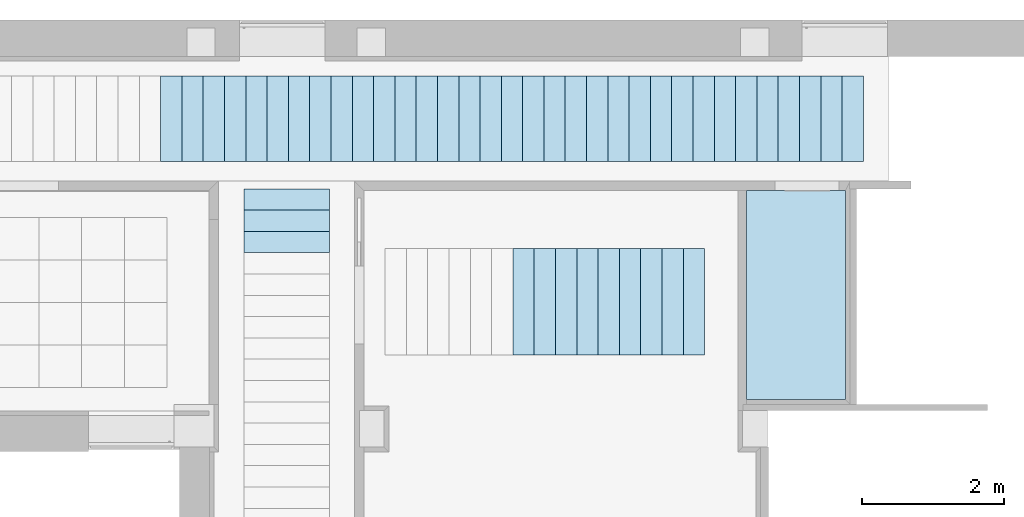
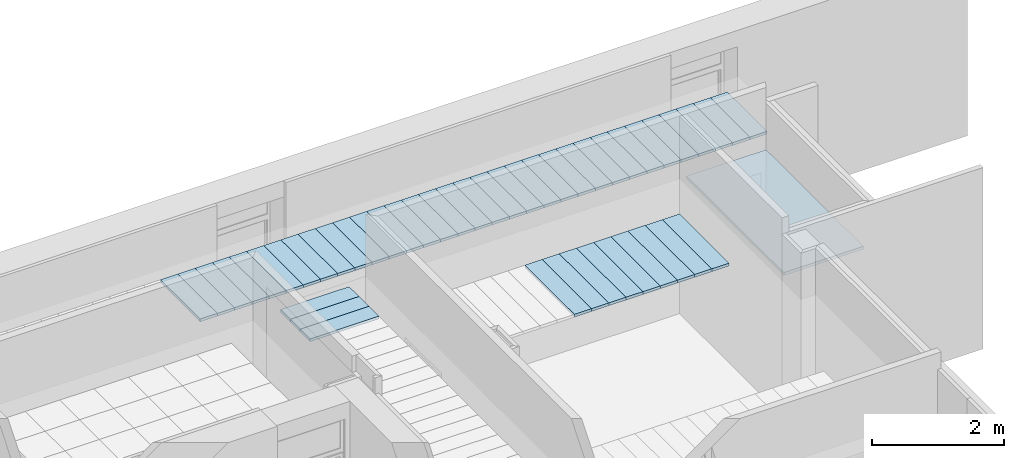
# One storey, part 13 of 60: 46 slabs.
"""IFC2X3 building model written with IfcOpenShell, lengths in millimetres."""

from ifc_helpers import new_model, entity, si_unit, converted_unit, derived_unit, money_unit, direction, frame, origin_with_axes, place, context, subcontext, project, spatial, polyline, outline, extrude, material, layer, layer_set, layer_usage, type_object, element, save


model = new_model("IFC2X3")

# Units and contexts
model_context = context("Model", 3, precision=0.01, world=origin_with_axes(), true_north=direction((0.0, 1.0)))
body_context = subcontext(model_context, "Body", "Model", "MODEL_VIEW")
ifc_project = project(units=[si_unit("LENGTHUNIT", "METRE", prefix="MILLI"), si_unit("AREAUNIT", "SQUARE_METRE"), si_unit("VOLUMEUNIT", "CUBIC_METRE"), converted_unit("PLANEANGLEUNIT", "DEGREE", entity("IfcPlaneAngleMeasure", 0.0174532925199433), si_unit("PLANEANGLEUNIT", "RADIAN"), dimensions=[0, 0, 0, 0, 0, 0, 0]), money_unit("USD"), converted_unit("TIMEUNIT", "Year", entity("IfcTimeMeasure", 31557600.0), si_unit("TIMEUNIT", "SECOND"), dimensions=[0, 0, 1, 0, 0, 0, 0]), si_unit("MASSUNIT", "GRAM", prefix="KILO"), si_unit("THERMODYNAMICTEMPERATUREUNIT", "DEGREE_CELSIUS"), si_unit("LUMINOUSINTENSITYUNIT", "LUMEN"), si_unit("ENERGYUNIT", "JOULE", prefix="MEGA"), derived_unit("THERMALCONDUCTANCEUNIT", [(si_unit("POWERUNIT", "WATT"), 1), (si_unit("LENGTHUNIT", "METRE"), -1), (si_unit("THERMODYNAMICTEMPERATUREUNIT", "KELVIN"), -1)]), derived_unit("SPECIFICHEATCAPACITYUNIT", [(si_unit("ENERGYUNIT", "JOULE"), 1), (si_unit("MASSUNIT", "GRAM", prefix="KILO"), -1), (si_unit("THERMODYNAMICTEMPERATUREUNIT", "KELVIN"), -1)]), derived_unit("MASSDENSITYUNIT", [(si_unit("MASSUNIT", "GRAM", prefix="KILO"), 1), (si_unit("VOLUMEUNIT", "CUBIC_METRE"), -1)])], contexts=[model_context])

# Site, building, storey
site_placement = place(None, origin_with_axes())
site = spatial("IfcSite", under=ifc_project, at=site_placement, Name="Sitio", CompositionType="ELEMENT")
building_placement = place(site_placement, origin_with_axes())
building = spatial("IfcBuilding", under=site, at=building_placement, Name="Construcción", CompositionType="ELEMENT")
storey_placement = place(building_placement, frame((0.0, 0.0, 3650.0), z_axis=(0.0, 0.0, 1.0), x_axis=(1.0, 0.0, 0.0)))
storey = spatial("IfcBuildingStorey", under=building, at=storey_placement, Name="PLANTA 2ª", CompositionType="ELEMENT", Elevation=3650.0)

# Slabs
ifc_material_1 = material(Name="ARQ_ME126_CelRas_Placa_Metallica")
ifc_layer_1 = layer(ifc_material_1, 50.0, ventilated="UNKNOWN")
ifc_layer_set_1 = layer_set([ifc_layer_1], Name="ARQ_ME126_CelRas_Placa_Metallica 50")
ifc_layer_usage_1 = layer_usage(ifc_layer_set_1, "AXIS3", "NEGATIVE", 50.0)
slab_type_1 = type_object("IfcSlabType", Name="ARQ_ME126_CelRas_Placa_Metallica 50", PredefinedType="NOTDEFINED")
slab_1_placement = place(storey_placement, frame((2592.890995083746, 1163.291547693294, 2500.0), z_axis=(0.0, 0.0, 1.0), x_axis=(1.0, 0.0, 0.0)))
element("IfcSlab", 1, at=slab_1_placement, inside=storey, type_object=slab_type_1, material=ifc_layer_usage_1, Name="SLA - 026", PredefinedType="NOTDEFINED", context=body_context, shape_type="SweptSolid", body=[
    extrude(outline(polyline([(0.0, 0.0), (0.0, -1500.0), (299.9999999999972, -1500.0), (299.9999999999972, 0.0), (0.0, 0.0)])), frame((0.0, 0.0, -50.0), z_axis=(0.0, 0.0, 1.0), x_axis=(1.0, 0.0, 0.0)), (0.0, 0.0, 1.0), 50.0),
])
ifc_layer_usage_2 = layer_usage(ifc_layer_set_1, "AXIS3", "NEGATIVE", 50.0)
slab_2_placement = place(storey_placement, frame((2892.890995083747, 1163.291547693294, 2500.0), z_axis=(0.0, 0.0, 1.0), x_axis=(1.0, 0.0, 0.0)))
element("IfcSlab", 2, at=slab_2_placement, inside=storey, type_object=slab_type_1, material=ifc_layer_usage_2, Name="SLA - 026", PredefinedType="NOTDEFINED", context=body_context, shape_type="SweptSolid", body=[
    extrude(outline(polyline([(0.0, 0.0), (0.0, -1500.0), (299.9999999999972, -1500.0), (299.9999999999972, 0.0), (0.0, 0.0)])), frame((0.0, 0.0, -50.0), z_axis=(0.0, 0.0, 1.0), x_axis=(1.0, 0.0, 0.0)), (0.0, 0.0, 1.0), 50.0),
])
ifc_layer_usage_3 = layer_usage(ifc_layer_set_1, "AXIS3", "NEGATIVE", 50.0)
slab_3_placement = place(storey_placement, frame((3192.890995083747, 1163.291547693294, 2500.0), z_axis=(0.0, 0.0, 1.0), x_axis=(1.0, 0.0, 0.0)))
element("IfcSlab", 3, at=slab_3_placement, inside=storey, type_object=slab_type_1, material=ifc_layer_usage_3, Name="SLA - 026", PredefinedType="NOTDEFINED", context=body_context, shape_type="SweptSolid", body=[
    extrude(outline(polyline([(0.0, 0.0), (0.0, -1500.0), (299.9999999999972, -1500.0), (299.9999999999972, 0.0), (0.0, 0.0)])), frame((0.0, 0.0, -50.0), z_axis=(0.0, 0.0, 1.0), x_axis=(1.0, 0.0, 0.0)), (0.0, 0.0, 1.0), 50.0),
])
ifc_layer_usage_4 = layer_usage(ifc_layer_set_1, "AXIS3", "NEGATIVE", 50.0)
slab_4_placement = place(storey_placement, frame((3492.890995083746, 1163.291547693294, 2500.0), z_axis=(0.0, 0.0, 1.0), x_axis=(1.0, 0.0, 0.0)))
element("IfcSlab", 4, at=slab_4_placement, inside=storey, type_object=slab_type_1, material=ifc_layer_usage_4, Name="SLA - 026", PredefinedType="NOTDEFINED", context=body_context, shape_type="SweptSolid", body=[
    extrude(outline(polyline([(0.0, 0.0), (0.0, -1500.0), (299.9999999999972, -1500.0), (299.9999999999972, 0.0), (0.0, 0.0)])), frame((0.0, 0.0, -50.0), z_axis=(0.0, 0.0, 1.0), x_axis=(1.0, 0.0, 0.0)), (0.0, 0.0, 1.0), 50.0),
])
ifc_layer_usage_5 = layer_usage(ifc_layer_set_1, "AXIS3", "NEGATIVE", 50.0)
slab_5_placement = place(storey_placement, frame((3792.890995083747, 1163.291547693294, 2500.0), z_axis=(0.0, 0.0, 1.0), x_axis=(1.0, 0.0, 0.0)))
element("IfcSlab", 5, at=slab_5_placement, inside=storey, type_object=slab_type_1, material=ifc_layer_usage_5, Name="SLA - 026", PredefinedType="NOTDEFINED", context=body_context, shape_type="SweptSolid", body=[
    extrude(outline(polyline([(0.0, 0.0), (0.0, -1500.0), (299.9999999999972, -1500.0), (299.9999999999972, 0.0), (0.0, 0.0)])), frame((0.0, 0.0, -50.0), z_axis=(0.0, 0.0, 1.0), x_axis=(1.0, 0.0, 0.0)), (0.0, 0.0, 1.0), 50.0),
])
ifc_layer_usage_6 = layer_usage(ifc_layer_set_1, "AXIS3", "NEGATIVE", 50.0)
slab_6_placement = place(storey_placement, frame((4392.890995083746, 1163.291547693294, 2500.0), z_axis=(0.0, 0.0, 1.0), x_axis=(1.0, 0.0, 0.0)))
element("IfcSlab", 6, at=slab_6_placement, inside=storey, type_object=slab_type_1, material=ifc_layer_usage_6, Name="SLA - 026", PredefinedType="NOTDEFINED", context=body_context, shape_type="SweptSolid", body=[
    extrude(outline(polyline([(0.0, 0.0), (0.0, -1500.0), (299.9999999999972, -1500.0), (299.9999999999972, 0.0), (0.0, 0.0)])), frame((0.0, 0.0, -50.0), z_axis=(0.0, 0.0, 1.0), x_axis=(1.0, 0.0, 0.0)), (0.0, 0.0, 1.0), 50.0),
])
ifc_layer_usage_7 = layer_usage(ifc_layer_set_1, "AXIS3", "NEGATIVE", 50.0)
slab_7_placement = place(storey_placement, frame((4692.890995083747, 1163.291547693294, 2500.0), z_axis=(0.0, 0.0, 1.0), x_axis=(1.0, 0.0, 0.0)))
element("IfcSlab", 7, at=slab_7_placement, inside=storey, type_object=slab_type_1, material=ifc_layer_usage_7, Name="SLA - 026", PredefinedType="NOTDEFINED", context=body_context, shape_type="SweptSolid", body=[
    extrude(outline(polyline([(0.0, 0.0), (0.0, -1500.0), (299.9999999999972, -1500.0), (299.9999999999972, 0.0), (0.0, 0.0)])), frame((0.0, 0.0, -50.0), z_axis=(0.0, 0.0, 1.0), x_axis=(1.0, 0.0, 0.0)), (0.0, 0.0, 1.0), 50.0),
])
ifc_layer_usage_8 = layer_usage(ifc_layer_set_1, "AXIS3", "NEGATIVE", 50.0)
slab_8_placement = place(storey_placement, frame((4992.890995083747, 1163.291547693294, 2500.0), z_axis=(0.0, 0.0, 1.0), x_axis=(1.0, 0.0, 0.0)))
element("IfcSlab", 8, at=slab_8_placement, inside=storey, type_object=slab_type_1, material=ifc_layer_usage_8, Name="SLA - 026", PredefinedType="NOTDEFINED", context=body_context, shape_type="SweptSolid", body=[
    extrude(outline(polyline([(0.0, 0.0), (0.0, -1500.0), (299.9999999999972, -1500.0), (299.9999999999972, 0.0), (0.0, 0.0)])), frame((0.0, 0.0, -50.0), z_axis=(0.0, 0.0, 1.0), x_axis=(1.0, 0.0, 0.0)), (0.0, 0.0, 1.0), 50.0),
])
ifc_layer_usage_9 = layer_usage(ifc_layer_set_1, "AXIS3", "NEGATIVE", 50.0)
slab_9_placement = place(storey_placement, frame((4092.890995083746, 1163.291547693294, 2500.0), z_axis=(0.0, 0.0, 1.0), x_axis=(1.0, 0.0, 0.0)))
element("IfcSlab", 9, at=slab_9_placement, inside=storey, type_object=slab_type_1, material=ifc_layer_usage_9, Name="SLA - 026", PredefinedType="NOTDEFINED", context=body_context, shape_type="SweptSolid", body=[
    extrude(outline(polyline([(0.0, 0.0), (0.0, -1500.0), (299.9999999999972, -1500.0), (299.9999999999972, 0.0), (0.0, 0.0)])), frame((0.0, 0.0, -50.0), z_axis=(0.0, 0.0, 1.0), x_axis=(1.0, 0.0, 0.0)), (0.0, 0.0, 1.0), 50.0),
])
ifc_layer_usage_10 = layer_usage(ifc_layer_set_1, "AXIS3", "NEGATIVE", 50.0)
slab_10_placement = place(storey_placement, frame((-1192.609613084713, 1100.853055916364, 2500.0), z_axis=(0.0, 0.0, 1.0), x_axis=(1.0, 0.0, 0.0)))
element("IfcSlab", 10, at=slab_10_placement, inside=storey, type_object=slab_type_1, material=ifc_layer_usage_10, Name="SLA - 026", PredefinedType="NOTDEFINED", context=body_context, shape_type="SweptSolid", body=[
    extrude(outline(polyline([(0.0, 0.0), (1200.0, 0.0), (1200.0, 299.9999999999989), (0.0, 299.9999999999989), (0.0, 0.0)])), frame((0.0, 0.0, -50.0), z_axis=(0.0, 0.0, 1.0), x_axis=(1.0, 0.0, 0.0)), (0.0, 0.0, 1.0), 50.0),
])
ifc_layer_usage_11 = layer_usage(ifc_layer_set_1, "AXIS3", "NEGATIVE", 50.0)
slab_11_placement = place(storey_placement, frame((-1192.609613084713, 1400.853055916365, 2500.0), z_axis=(0.0, 0.0, 1.0), x_axis=(1.0, 0.0, 0.0)))
element("IfcSlab", 11, at=slab_11_placement, inside=storey, type_object=slab_type_1, material=ifc_layer_usage_11, Name="SLA - 026", PredefinedType="NOTDEFINED", context=body_context, shape_type="SweptSolid", body=[
    extrude(outline(polyline([(0.0, 0.0), (1200.0, 0.0), (1200.0, 299.9999999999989), (0.0, 299.9999999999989), (0.0, 0.0)])), frame((0.0, 0.0, -50.0), z_axis=(0.0, 0.0, 1.0), x_axis=(1.0, 0.0, 0.0)), (0.0, 0.0, 1.0), 50.0),
])
ifc_layer_usage_12 = layer_usage(ifc_layer_set_1, "AXIS3", "NEGATIVE", 50.0)
slab_12_placement = place(storey_placement, frame((5129.762917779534, 3586.50452866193, 2500.0), z_axis=(0.0, 0.0, 1.0), x_axis=(1.0, 0.0, 0.0)))
element("IfcSlab", 12, at=slab_12_placement, inside=storey, type_object=slab_type_1, material=ifc_layer_usage_12, Name="SLA - 026", PredefinedType="NOTDEFINED", context=body_context, shape_type="SweptSolid", body=[
    extrude(outline(polyline([(0.0, 0.0), (0.0, -1199.999999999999), (300.0000000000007, -1199.999999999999), (300.0000000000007, 0.0), (0.0, 0.0)])), frame((0.0, 0.0, -50.0), z_axis=(0.0, 0.0, 1.0), x_axis=(1.0, 0.0, 0.0)), (0.0, 0.0, 1.0), 50.0),
])
ifc_layer_usage_13 = layer_usage(ifc_layer_set_1, "AXIS3", "NEGATIVE", 50.0)
slab_13_placement = place(storey_placement, frame((4829.762917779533, 3586.50452866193, 2500.0), z_axis=(0.0, 0.0, 1.0), x_axis=(1.0, 0.0, 0.0)))
element("IfcSlab", 13, at=slab_13_placement, inside=storey, type_object=slab_type_1, material=ifc_layer_usage_13, Name="SLA - 026", PredefinedType="NOTDEFINED", context=body_context, shape_type="SweptSolid", body=[
    extrude(outline(polyline([(0.0, 0.0), (0.0, -1199.999999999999), (300.0000000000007, -1199.999999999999), (300.0000000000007, 0.0), (0.0, 0.0)])), frame((0.0, 0.0, -50.0), z_axis=(0.0, 0.0, 1.0), x_axis=(1.0, 0.0, 0.0)), (0.0, 0.0, 1.0), 50.0),
])
ifc_layer_usage_14 = layer_usage(ifc_layer_set_1, "AXIS3", "NEGATIVE", 50.0)
slab_14_placement = place(storey_placement, frame((4529.762917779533, 3586.50452866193, 2500.0), z_axis=(0.0, 0.0, 1.0), x_axis=(1.0, 0.0, 0.0)))
element("IfcSlab", 14, at=slab_14_placement, inside=storey, type_object=slab_type_1, material=ifc_layer_usage_14, Name="SLA - 026", PredefinedType="NOTDEFINED", context=body_context, shape_type="SweptSolid", body=[
    extrude(outline(polyline([(0.0, 0.0), (0.0, -1199.999999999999), (300.0000000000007, -1199.999999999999), (300.0000000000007, 0.0), (0.0, 0.0)])), frame((0.0, 0.0, -50.0), z_axis=(0.0, 0.0, 1.0), x_axis=(1.0, 0.0, 0.0)), (0.0, 0.0, 1.0), 50.0),
])
ifc_layer_usage_15 = layer_usage(ifc_layer_set_1, "AXIS3", "NEGATIVE", 50.0)
slab_15_placement = place(storey_placement, frame((-1192.609613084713, 1700.853055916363, 2500.0), z_axis=(0.0, 0.0, 1.0), x_axis=(1.0, 0.0, 0.0)))
element("IfcSlab", 15, at=slab_15_placement, inside=storey, type_object=slab_type_1, material=ifc_layer_usage_15, Name="SLA - 026", PredefinedType="NOTDEFINED", context=body_context, shape_type="SweptSolid", body=[
    extrude(outline(polyline([(0.0, 0.0), (1200.0, 0.0), (1200.0, 299.9999999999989), (0.0, 299.9999999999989), (0.0, 0.0)])), frame((0.0, 0.0, -50.0), z_axis=(0.0, 0.0, 1.0), x_axis=(1.0, 0.0, 0.0)), (0.0, 0.0, 1.0), 50.0),
])
ifc_layer_usage_16 = layer_usage(ifc_layer_set_1, "AXIS3", "NEGATIVE", 50.0)
slab_16_placement = place(storey_placement, frame((3929.762917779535, 3586.50452866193, 2500.0), z_axis=(0.0, 0.0, 1.0), x_axis=(1.0, 0.0, 0.0)))
element("IfcSlab", 16, at=slab_16_placement, inside=storey, type_object=slab_type_1, material=ifc_layer_usage_16, Name="SLA - 026", PredefinedType="NOTDEFINED", context=body_context, shape_type="SweptSolid", body=[
    extrude(outline(polyline([(0.0, 0.0), (0.0, -1199.999999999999), (300.0000000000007, -1199.999999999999), (300.0000000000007, 0.0), (0.0, 0.0)])), frame((0.0, 0.0, -50.0), z_axis=(0.0, 0.0, 1.0), x_axis=(1.0, 0.0, 0.0)), (0.0, 0.0, 1.0), 50.0),
])
ifc_layer_usage_17 = layer_usage(ifc_layer_set_1, "AXIS3", "NEGATIVE", 50.0)
slab_17_placement = place(storey_placement, frame((3629.762917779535, 3586.50452866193, 2500.0), z_axis=(0.0, 0.0, 1.0), x_axis=(1.0, 0.0, 0.0)))
element("IfcSlab", 17, at=slab_17_placement, inside=storey, type_object=slab_type_1, material=ifc_layer_usage_17, Name="SLA - 026", PredefinedType="NOTDEFINED", context=body_context, shape_type="SweptSolid", body=[
    extrude(outline(polyline([(0.0, 0.0), (0.0, -1199.999999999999), (300.0000000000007, -1199.999999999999), (300.0000000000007, 0.0), (0.0, 0.0)])), frame((0.0, 0.0, -50.0), z_axis=(0.0, 0.0, 1.0), x_axis=(1.0, 0.0, 0.0)), (0.0, 0.0, 1.0), 50.0),
])
ifc_layer_usage_18 = layer_usage(ifc_layer_set_1, "AXIS3", "NEGATIVE", 50.0)
slab_18_placement = place(storey_placement, frame((3329.762917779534, 3586.50452866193, 2500.0), z_axis=(0.0, 0.0, 1.0), x_axis=(1.0, 0.0, 0.0)))
element("IfcSlab", 18, at=slab_18_placement, inside=storey, type_object=slab_type_1, material=ifc_layer_usage_18, Name="SLA - 026", PredefinedType="NOTDEFINED", context=body_context, shape_type="SweptSolid", body=[
    extrude(outline(polyline([(0.0, 0.0), (0.0, -1199.999999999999), (300.0000000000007, -1199.999999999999), (300.0000000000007, 0.0), (0.0, 0.0)])), frame((0.0, 0.0, -50.0), z_axis=(0.0, 0.0, 1.0), x_axis=(1.0, 0.0, 0.0)), (0.0, 0.0, 1.0), 50.0),
])
ifc_layer_usage_19 = layer_usage(ifc_layer_set_1, "AXIS3", "NEGATIVE", 50.0)
slab_19_placement = place(storey_placement, frame((3029.762917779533, 3586.50452866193, 2500.0), z_axis=(0.0, 0.0, 1.0), x_axis=(1.0, 0.0, 0.0)))
element("IfcSlab", 19, at=slab_19_placement, inside=storey, type_object=slab_type_1, material=ifc_layer_usage_19, Name="SLA - 026", PredefinedType="NOTDEFINED", context=body_context, shape_type="SweptSolid", body=[
    extrude(outline(polyline([(0.0, 0.0), (0.0, -1199.999999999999), (300.0000000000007, -1199.999999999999), (300.0000000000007, 0.0), (0.0, 0.0)])), frame((0.0, 0.0, -50.0), z_axis=(0.0, 0.0, 1.0), x_axis=(1.0, 0.0, 0.0)), (0.0, 0.0, 1.0), 50.0),
])
ifc_layer_usage_20 = layer_usage(ifc_layer_set_1, "AXIS3", "NEGATIVE", 50.0)
slab_20_placement = place(storey_placement, frame((4229.762917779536, 3586.50452866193, 2500.0), z_axis=(0.0, 0.0, 1.0), x_axis=(1.0, 0.0, 0.0)))
element("IfcSlab", 20, at=slab_20_placement, inside=storey, type_object=slab_type_1, material=ifc_layer_usage_20, Name="SLA - 026", PredefinedType="NOTDEFINED", context=body_context, shape_type="SweptSolid", body=[
    extrude(outline(polyline([(0.0, 0.0), (0.0, -1199.999999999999), (300.0000000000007, -1199.999999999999), (300.0000000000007, 0.0), (0.0, 0.0)])), frame((0.0, 0.0, -50.0), z_axis=(0.0, 0.0, 1.0), x_axis=(1.0, 0.0, 0.0)), (0.0, 0.0, 1.0), 50.0),
])
ifc_layer_usage_21 = layer_usage(ifc_layer_set_1, "AXIS3", "NEGATIVE", 50.0)
slab_21_placement = place(storey_placement, frame((2729.762917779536, 3586.50452866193, 2500.0), z_axis=(0.0, 0.0, 1.0), x_axis=(1.0, 0.0, 0.0)))
element("IfcSlab", 21, at=slab_21_placement, inside=storey, type_object=slab_type_1, material=ifc_layer_usage_21, Name="SLA - 026", PredefinedType="NOTDEFINED", context=body_context, shape_type="SweptSolid", body=[
    extrude(outline(polyline([(0.0, 0.0), (0.0, -1199.999999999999), (300.0000000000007, -1199.999999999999), (300.0000000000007, 0.0), (0.0, 0.0)])), frame((0.0, 0.0, -50.0), z_axis=(0.0, 0.0, 1.0), x_axis=(1.0, 0.0, 0.0)), (0.0, 0.0, 1.0), 50.0),
])
ifc_layer_usage_22 = layer_usage(ifc_layer_set_1, "AXIS3", "NEGATIVE", 50.0)
slab_22_placement = place(storey_placement, frame((2129.762917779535, 3586.50452866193, 2500.0), z_axis=(0.0, 0.0, 1.0), x_axis=(1.0, 0.0, 0.0)))
element("IfcSlab", 22, at=slab_22_placement, inside=storey, type_object=slab_type_1, material=ifc_layer_usage_22, Name="SLA - 026", PredefinedType="NOTDEFINED", context=body_context, shape_type="SweptSolid", body=[
    extrude(outline(polyline([(0.0, 0.0), (0.0, -1199.999999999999), (300.0000000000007, -1199.999999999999), (300.0000000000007, 0.0), (0.0, 0.0)])), frame((0.0, 0.0, -50.0), z_axis=(0.0, 0.0, 1.0), x_axis=(1.0, 0.0, 0.0)), (0.0, 0.0, 1.0), 50.0),
])
ifc_layer_usage_23 = layer_usage(ifc_layer_set_1, "AXIS3", "NEGATIVE", 50.0)
slab_23_placement = place(storey_placement, frame((1829.762917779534, 3586.50452866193, 2500.0), z_axis=(0.0, 0.0, 1.0), x_axis=(1.0, 0.0, 0.0)))
element("IfcSlab", 23, at=slab_23_placement, inside=storey, type_object=slab_type_1, material=ifc_layer_usage_23, Name="SLA - 026", PredefinedType="NOTDEFINED", context=body_context, shape_type="SweptSolid", body=[
    extrude(outline(polyline([(0.0, 0.0), (0.0, -1199.999999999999), (300.0000000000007, -1199.999999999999), (300.0000000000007, 0.0), (0.0, 0.0)])), frame((0.0, 0.0, -50.0), z_axis=(0.0, 0.0, 1.0), x_axis=(1.0, 0.0, 0.0)), (0.0, 0.0, 1.0), 50.0),
])
ifc_layer_usage_24 = layer_usage(ifc_layer_set_1, "AXIS3", "NEGATIVE", 50.0)
slab_24_placement = place(storey_placement, frame((2429.762917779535, 3586.50452866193, 2500.0), z_axis=(0.0, 0.0, 1.0), x_axis=(1.0, 0.0, 0.0)))
element("IfcSlab", 24, at=slab_24_placement, inside=storey, type_object=slab_type_1, material=ifc_layer_usage_24, Name="SLA - 026", PredefinedType="NOTDEFINED", context=body_context, shape_type="SweptSolid", body=[
    extrude(outline(polyline([(0.0, 0.0), (0.0, -1199.999999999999), (300.0000000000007, -1199.999999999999), (300.0000000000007, 0.0), (0.0, 0.0)])), frame((0.0, 0.0, -50.0), z_axis=(0.0, 0.0, 1.0), x_axis=(1.0, 0.0, 0.0)), (0.0, 0.0, 1.0), 50.0),
])
ifc_layer_usage_25 = layer_usage(ifc_layer_set_1, "AXIS3", "NEGATIVE", 50.0)
slab_25_placement = place(storey_placement, frame((1229.762917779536, 3586.50452866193, 2500.0), z_axis=(0.0, 0.0, 1.0), x_axis=(1.0, 0.0, 0.0)))
element("IfcSlab", 25, at=slab_25_placement, inside=storey, type_object=slab_type_1, material=ifc_layer_usage_25, Name="SLA - 026", PredefinedType="NOTDEFINED", context=body_context, shape_type="SweptSolid", body=[
    extrude(outline(polyline([(0.0, 0.0), (0.0, -1199.999999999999), (300.0000000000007, -1199.999999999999), (300.0000000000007, 0.0), (0.0, 0.0)])), frame((0.0, 0.0, -50.0), z_axis=(0.0, 0.0, 1.0), x_axis=(1.0, 0.0, 0.0)), (0.0, 0.0, 1.0), 50.0),
])
ifc_layer_usage_26 = layer_usage(ifc_layer_set_1, "AXIS3", "NEGATIVE", 50.0)
slab_26_placement = place(storey_placement, frame((929.7629177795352, 3586.50452866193, 2500.0), z_axis=(0.0, 0.0, 1.0), x_axis=(1.0, 0.0, 0.0)))
element("IfcSlab", 26, at=slab_26_placement, inside=storey, type_object=slab_type_1, material=ifc_layer_usage_26, Name="SLA - 026", PredefinedType="NOTDEFINED", context=body_context, shape_type="SweptSolid", body=[
    extrude(outline(polyline([(0.0, 0.0), (0.0, -1199.999999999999), (300.0000000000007, -1199.999999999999), (300.0000000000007, 0.0), (0.0, 0.0)])), frame((0.0, 0.0, -50.0), z_axis=(0.0, 0.0, 1.0), x_axis=(1.0, 0.0, 0.0)), (0.0, 0.0, 1.0), 50.0),
])
ifc_layer_usage_27 = layer_usage(ifc_layer_set_1, "AXIS3", "NEGATIVE", 50.0)
slab_27_placement = place(storey_placement, frame((1529.762917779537, 3586.50452866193, 2500.0), z_axis=(0.0, 0.0, 1.0), x_axis=(1.0, 0.0, 0.0)))
element("IfcSlab", 27, at=slab_27_placement, inside=storey, type_object=slab_type_1, material=ifc_layer_usage_27, Name="SLA - 026", PredefinedType="NOTDEFINED", context=body_context, shape_type="SweptSolid", body=[
    extrude(outline(polyline([(0.0, 0.0), (0.0, -1199.999999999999), (300.0000000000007, -1199.999999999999), (300.0000000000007, 0.0), (0.0, 0.0)])), frame((0.0, 0.0, -50.0), z_axis=(0.0, 0.0, 1.0), x_axis=(1.0, 0.0, 0.0)), (0.0, 0.0, 1.0), 50.0),
])
ifc_layer_usage_28 = layer_usage(ifc_layer_set_1, "AXIS3", "NEGATIVE", 50.0)
slab_28_placement = place(storey_placement, frame((629.7629177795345, 3586.50452866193, 2500.0), z_axis=(0.0, 0.0, 1.0), x_axis=(1.0, 0.0, 0.0)))
element("IfcSlab", 28, at=slab_28_placement, inside=storey, type_object=slab_type_1, material=ifc_layer_usage_28, Name="SLA - 026", PredefinedType="NOTDEFINED", context=body_context, shape_type="SweptSolid", body=[
    extrude(outline(polyline([(0.0, 0.0), (0.0, -1199.999999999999), (300.0000000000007, -1199.999999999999), (300.0000000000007, 0.0), (0.0, 0.0)])), frame((0.0, 0.0, -50.0), z_axis=(0.0, 0.0, 1.0), x_axis=(1.0, 0.0, 0.0)), (0.0, 0.0, 1.0), 50.0),
])
ifc_layer_usage_29 = layer_usage(ifc_layer_set_1, "AXIS3", "NEGATIVE", 50.0)
slab_29_placement = place(storey_placement, frame((329.7629177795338, 3586.50452866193, 2500.0), z_axis=(0.0, 0.0, 1.0), x_axis=(1.0, 0.0, 0.0)))
element("IfcSlab", 29, at=slab_29_placement, inside=storey, type_object=slab_type_1, material=ifc_layer_usage_29, Name="SLA - 026", PredefinedType="NOTDEFINED", context=body_context, shape_type="SweptSolid", body=[
    extrude(outline(polyline([(0.0, 0.0), (0.0, -1199.999999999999), (300.0000000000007, -1199.999999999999), (300.0000000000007, 0.0), (0.0, 0.0)])), frame((0.0, 0.0, -50.0), z_axis=(0.0, 0.0, 1.0), x_axis=(1.0, 0.0, 0.0)), (0.0, 0.0, 1.0), 50.0),
])
ifc_layer_usage_30 = layer_usage(ifc_layer_set_1, "AXIS3", "NEGATIVE", 50.0)
slab_30_placement = place(storey_placement, frame((-270.2370822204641, 3586.50452866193, 2500.0), z_axis=(0.0, 0.0, 1.0), x_axis=(1.0, 0.0, 0.0)))
element("IfcSlab", 30, at=slab_30_placement, inside=storey, type_object=slab_type_1, material=ifc_layer_usage_30, Name="SLA - 026", PredefinedType="NOTDEFINED", context=body_context, shape_type="SweptSolid", body=[
    extrude(outline(polyline([(0.0, 0.0), (0.0, -1199.999999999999), (300.0000000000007, -1199.999999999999), (300.0000000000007, 0.0), (0.0, 0.0)])), frame((0.0, 0.0, -50.0), z_axis=(0.0, 0.0, 1.0), x_axis=(1.0, 0.0, 0.0)), (0.0, 0.0, 1.0), 50.0),
])
ifc_layer_usage_31 = layer_usage(ifc_layer_set_1, "AXIS3", "NEGATIVE", 50.0)
slab_31_placement = place(storey_placement, frame((29.76291777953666, 3586.50452866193, 2500.0), z_axis=(0.0, 0.0, 1.0), x_axis=(1.0, 0.0, 0.0)))
element("IfcSlab", 31, at=slab_31_placement, inside=storey, type_object=slab_type_1, material=ifc_layer_usage_31, Name="SLA - 026", PredefinedType="NOTDEFINED", context=body_context, shape_type="SweptSolid", body=[
    extrude(outline(polyline([(0.0, 0.0), (0.0, -1199.999999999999), (300.0000000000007, -1199.999999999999), (300.0000000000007, 0.0), (0.0, 0.0)])), frame((0.0, 0.0, -50.0), z_axis=(0.0, 0.0, 1.0), x_axis=(1.0, 0.0, 0.0)), (0.0, 0.0, 1.0), 50.0),
])
ifc_layer_usage_32 = layer_usage(ifc_layer_set_1, "AXIS3", "NEGATIVE", 50.0)
slab_32_placement = place(storey_placement, frame((-570.2370822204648, 3586.50452866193, 2500.0), z_axis=(0.0, 0.0, 1.0), x_axis=(1.0, 0.0, 0.0)))
element("IfcSlab", 32, at=slab_32_placement, inside=storey, type_object=slab_type_1, material=ifc_layer_usage_32, Name="SLA - 026", PredefinedType="NOTDEFINED", context=body_context, shape_type="SweptSolid", body=[
    extrude(outline(polyline([(0.0, 0.0), (0.0, -1199.999999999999), (300.0000000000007, -1199.999999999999), (300.0000000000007, 0.0), (0.0, 0.0)])), frame((0.0, 0.0, -50.0), z_axis=(0.0, 0.0, 1.0), x_axis=(1.0, 0.0, 0.0)), (0.0, 0.0, 1.0), 50.0),
])
ifc_layer_usage_33 = layer_usage(ifc_layer_set_1, "AXIS3", "NEGATIVE", 50.0)
slab_33_placement = place(storey_placement, frame((-870.2370822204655, 3586.50452866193, 2500.0), z_axis=(0.0, 0.0, 1.0), x_axis=(1.0, 0.0, 0.0)))
element("IfcSlab", 33, at=slab_33_placement, inside=storey, type_object=slab_type_1, material=ifc_layer_usage_33, Name="SLA - 026", PredefinedType="NOTDEFINED", context=body_context, shape_type="SweptSolid", body=[
    extrude(outline(polyline([(0.0, 0.0), (0.0, -1199.999999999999), (300.0000000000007, -1199.999999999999), (300.0000000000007, 0.0), (0.0, 0.0)])), frame((0.0, 0.0, -50.0), z_axis=(0.0, 0.0, 1.0), x_axis=(1.0, 0.0, 0.0)), (0.0, 0.0, 1.0), 50.0),
])
ifc_layer_usage_34 = layer_usage(ifc_layer_set_1, "AXIS3", "NEGATIVE", 50.0)
slab_34_placement = place(storey_placement, frame((-1170.237082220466, 3586.50452866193, 2500.0), z_axis=(0.0, 0.0, 1.0), x_axis=(1.0, 0.0, 0.0)))
element("IfcSlab", 34, at=slab_34_placement, inside=storey, type_object=slab_type_1, material=ifc_layer_usage_34, Name="SLA - 026", PredefinedType="NOTDEFINED", context=body_context, shape_type="SweptSolid", body=[
    extrude(outline(polyline([(0.0, 0.0), (0.0, -1199.999999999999), (300.0000000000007, -1199.999999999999), (300.0000000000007, 0.0), (0.0, 0.0)])), frame((0.0, 0.0, -50.0), z_axis=(0.0, 0.0, 1.0), x_axis=(1.0, 0.0, 0.0)), (0.0, 0.0, 1.0), 50.0),
])
ifc_layer_usage_35 = layer_usage(ifc_layer_set_1, "AXIS3", "NEGATIVE", 50.0)
slab_35_placement = place(storey_placement, frame((-1470.237082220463, 3586.50452866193, 2500.0), z_axis=(0.0, 0.0, 1.0), x_axis=(1.0, 0.0, 0.0)))
element("IfcSlab", 35, at=slab_35_placement, inside=storey, type_object=slab_type_1, material=ifc_layer_usage_35, Name="SLA - 026", PredefinedType="NOTDEFINED", context=body_context, shape_type="SweptSolid", body=[
    extrude(outline(polyline([(0.0, 0.0), (0.0, -1199.999999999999), (300.0000000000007, -1199.999999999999), (300.0000000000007, 0.0), (0.0, 0.0)])), frame((0.0, 0.0, -50.0), z_axis=(0.0, 0.0, 1.0), x_axis=(1.0, 0.0, 0.0)), (0.0, 0.0, 1.0), 50.0),
])
ifc_layer_usage_36 = layer_usage(ifc_layer_set_1, "AXIS3", "NEGATIVE", 50.0)
slab_36_placement = place(storey_placement, frame((-2070.237082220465, 3586.50452866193, 2500.0), z_axis=(0.0, 0.0, 1.0), x_axis=(1.0, 0.0, 0.0)))
element("IfcSlab", 36, at=slab_36_placement, inside=storey, type_object=slab_type_1, material=ifc_layer_usage_36, Name="SLA - 026", PredefinedType="NOTDEFINED", context=body_context, shape_type="SweptSolid", body=[
    extrude(outline(polyline([(0.0, 0.0), (0.0, -1199.999999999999), (300.0000000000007, -1199.999999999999), (300.0000000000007, 0.0), (0.0, 0.0)])), frame((0.0, 0.0, -50.0), z_axis=(0.0, 0.0, 1.0), x_axis=(1.0, 0.0, 0.0)), (0.0, 0.0, 1.0), 50.0),
])
ifc_layer_usage_37 = layer_usage(ifc_layer_set_1, "AXIS3", "NEGATIVE", 50.0)
slab_37_placement = place(storey_placement, frame((-1770.237082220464, 3586.50452866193, 2500.0), z_axis=(0.0, 0.0, 1.0), x_axis=(1.0, 0.0, 0.0)))
element("IfcSlab", 37, at=slab_37_placement, inside=storey, type_object=slab_type_1, material=ifc_layer_usage_37, Name="SLA - 026", PredefinedType="NOTDEFINED", context=body_context, shape_type="SweptSolid", body=[
    extrude(outline(polyline([(0.0, 0.0), (0.0, -1199.999999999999), (300.0000000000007, -1199.999999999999), (300.0000000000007, 0.0), (0.0, 0.0)])), frame((0.0, 0.0, -50.0), z_axis=(0.0, 0.0, 1.0), x_axis=(1.0, 0.0, 0.0)), (0.0, 0.0, 1.0), 50.0),
])
ifc_layer_usage_38 = layer_usage(ifc_layer_set_1, "AXIS3", "NEGATIVE", 50.0)
slab_38_placement = place(storey_placement, frame((-2370.237082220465, 3586.50452866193, 2500.0), z_axis=(0.0, 0.0, 1.0), x_axis=(1.0, 0.0, 0.0)))
element("IfcSlab", 38, at=slab_38_placement, inside=storey, type_object=slab_type_1, material=ifc_layer_usage_38, Name="SLA - 026", PredefinedType="NOTDEFINED", context=body_context, shape_type="SweptSolid", body=[
    extrude(outline(polyline([(0.0, 0.0), (0.0, -1199.999999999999), (300.0000000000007, -1199.999999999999), (300.0000000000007, 0.0), (0.0, 0.0)])), frame((0.0, 0.0, -50.0), z_axis=(0.0, 0.0, 1.0), x_axis=(1.0, 0.0, 0.0)), (0.0, 0.0, 1.0), 50.0),
])
ifc_layer_usage_39 = layer_usage(ifc_layer_set_1, "AXIS3", "NEGATIVE", 50.0)
slab_39_placement = place(storey_placement, frame((5429.762917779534, 3586.50452866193, 2500.0), z_axis=(0.0, 0.0, 1.0), x_axis=(1.0, 0.0, 0.0)))
element("IfcSlab", 39, at=slab_39_placement, inside=storey, type_object=slab_type_1, material=ifc_layer_usage_39, Name="SLA - 026", PredefinedType="NOTDEFINED", context=body_context, shape_type="SweptSolid", body=[
    extrude(outline(polyline([(0.0, 0.0), (0.0, -1199.999999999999), (300.0000000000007, -1199.999999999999), (300.0000000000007, 0.0), (0.0, 0.0)])), frame((0.0, 0.0, -50.0), z_axis=(0.0, 0.0, 1.0), x_axis=(1.0, 0.0, 0.0)), (0.0, 0.0, 1.0), 50.0),
])
ifc_layer_usage_40 = layer_usage(ifc_layer_set_1, "AXIS3", "NEGATIVE", 50.0)
slab_40_placement = place(storey_placement, frame((6329.762917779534, 3586.50452866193, 2500.0), z_axis=(0.0, 0.0, 1.0), x_axis=(1.0, 0.0, 0.0)))
element("IfcSlab", 40, at=slab_40_placement, inside=storey, type_object=slab_type_1, material=ifc_layer_usage_40, Name="SLA - 026", PredefinedType="NOTDEFINED", context=body_context, shape_type="SweptSolid", body=[
    extrude(outline(polyline([(0.0, 0.0), (0.0, -1199.999999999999), (300.0000000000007, -1199.999999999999), (300.0000000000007, 0.0), (0.0, 0.0)])), frame((0.0, 0.0, -50.0), z_axis=(0.0, 0.0, 1.0), x_axis=(1.0, 0.0, 0.0)), (0.0, 0.0, 1.0), 50.0),
])
ifc_layer_usage_41 = layer_usage(ifc_layer_set_1, "AXIS3", "NEGATIVE", 50.0)
slab_41_placement = place(storey_placement, frame((5729.762917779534, 3586.50452866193, 2500.0), z_axis=(0.0, 0.0, 1.0), x_axis=(1.0, 0.0, 0.0)))
element("IfcSlab", 41, at=slab_41_placement, inside=storey, type_object=slab_type_1, material=ifc_layer_usage_41, Name="SLA - 026", PredefinedType="NOTDEFINED", context=body_context, shape_type="SweptSolid", body=[
    extrude(outline(polyline([(0.0, 0.0), (0.0, -1199.999999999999), (300.0000000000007, -1199.999999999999), (300.0000000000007, 0.0), (0.0, 0.0)])), frame((0.0, 0.0, -50.0), z_axis=(0.0, 0.0, 1.0), x_axis=(1.0, 0.0, 0.0)), (0.0, 0.0, 1.0), 50.0),
])
ifc_layer_usage_42 = layer_usage(ifc_layer_set_1, "AXIS3", "NEGATIVE", 50.0)
slab_42_placement = place(storey_placement, frame((6029.762917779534, 3586.50452866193, 2500.0), z_axis=(0.0, 0.0, 1.0), x_axis=(1.0, 0.0, 0.0)))
element("IfcSlab", 42, at=slab_42_placement, inside=storey, type_object=slab_type_1, material=ifc_layer_usage_42, Name="SLA - 026", PredefinedType="NOTDEFINED", context=body_context, shape_type="SweptSolid", body=[
    extrude(outline(polyline([(0.0, 0.0), (0.0, -1199.999999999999), (300.0000000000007, -1199.999999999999), (300.0000000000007, 0.0), (0.0, 0.0)])), frame((0.0, 0.0, -50.0), z_axis=(0.0, 0.0, 1.0), x_axis=(1.0, 0.0, 0.0)), (0.0, 0.0, 1.0), 50.0),
])
ifc_layer_usage_43 = layer_usage(ifc_layer_set_1, "AXIS3", "NEGATIVE", 50.0)
slab_43_placement = place(storey_placement, frame((6629.762917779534, 3586.50452866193, 2500.0), z_axis=(0.0, 0.0, 1.0), x_axis=(1.0, 0.0, 0.0)))
element("IfcSlab", 43, at=slab_43_placement, inside=storey, type_object=slab_type_1, material=ifc_layer_usage_43, Name="SLA - 026", PredefinedType="NOTDEFINED", context=body_context, shape_type="SweptSolid", body=[
    extrude(outline(polyline([(0.0, 0.0), (0.0, -1199.999999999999), (300.0000000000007, -1199.999999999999), (300.0000000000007, 0.0), (0.0, 0.0)])), frame((0.0, 0.0, -50.0), z_axis=(0.0, 0.0, 1.0), x_axis=(1.0, 0.0, 0.0)), (0.0, 0.0, 1.0), 50.0),
])
ifc_layer_usage_44 = layer_usage(ifc_layer_set_1, "AXIS3", "NEGATIVE", 50.0)
slab_44_placement = place(storey_placement, frame((6929.762917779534, 3586.50452866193, 2500.0), z_axis=(0.0, 0.0, 1.0), x_axis=(1.0, 0.0, 0.0)))
element("IfcSlab", 44, at=slab_44_placement, inside=storey, type_object=slab_type_1, material=ifc_layer_usage_44, Name="SLA - 026", PredefinedType="NOTDEFINED", context=body_context, shape_type="SweptSolid", body=[
    extrude(outline(polyline([(0.0, 0.0), (0.0, -1199.999999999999), (300.0000000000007, -1199.999999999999), (300.0000000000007, 0.0), (0.0, 0.0)])), frame((0.0, 0.0, -50.0), z_axis=(0.0, 0.0, 1.0), x_axis=(1.0, 0.0, 0.0)), (0.0, 0.0, 1.0), 50.0),
])
ifc_layer_usage_45 = layer_usage(ifc_layer_set_1, "AXIS3", "NEGATIVE", 50.0)
slab_45_placement = place(storey_placement, frame((7229.762917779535, 3586.50452866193, 2500.0), z_axis=(0.0, 0.0, 1.0), x_axis=(1.0, 0.0, 0.0)))
element("IfcSlab", 45, at=slab_45_placement, inside=storey, type_object=slab_type_1, material=ifc_layer_usage_45, Name="SLA - 026", PredefinedType="NOTDEFINED", context=body_context, shape_type="SweptSolid", body=[
    extrude(outline(polyline([(0.0, 0.0), (0.0, -1199.999999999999), (300.0000000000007, -1199.999999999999), (300.0000000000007, 0.0), (0.0, 0.0)])), frame((0.0, 0.0, -50.0), z_axis=(0.0, 0.0, 1.0), x_axis=(1.0, 0.0, 0.0)), (0.0, 0.0, 1.0), 50.0),
])
ifc_material_2 = material(Name="ARQ_CG064_CelRas_Guix_Continu")
ifc_layer_2 = layer(ifc_material_2, 53.0, ventilated="UNKNOWN")
ifc_layer_set_2 = layer_set([ifc_layer_2], Name="ARQ_CG064_CelRas_Guix_Continu 53")
ifc_layer_usage_46 = layer_usage(ifc_layer_set_2, "AXIS3", "NEGATIVE", 53.0)
slab_type_2 = type_object("IfcSlabType", Name="ARQ_CG064_CelRas_Guix_Continu 53", PredefinedType="NOTDEFINED")
slab_46_placement = place(storey_placement, frame((5884.890995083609, -967.9759884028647, 2500.0), z_axis=(0.0, 0.0, 1.0), x_axis=(1.0, 0.0, 0.0)))
element("IfcSlab", 46, at=slab_46_placement, inside=storey, type_object=slab_type_2, material=ifc_layer_usage_46, Name="SLA - 014", PredefinedType="NOTDEFINED", context=body_context, shape_type="SweptSolid", body=[
    extrude(outline(polyline([(0.0, 0.0), (1391.214859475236, 0.0), (1391.214859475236, 2943.530859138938), (0.0, 2943.530859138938), (0.0, 0.0)])), frame((0.0, 0.0, -53.0), z_axis=(0.0, 0.0, 1.0), x_axis=(1.0, 0.0, 0.0)), (0.0, 0.0, 1.0), 53.0),
])

save(model, "model.ifc")
